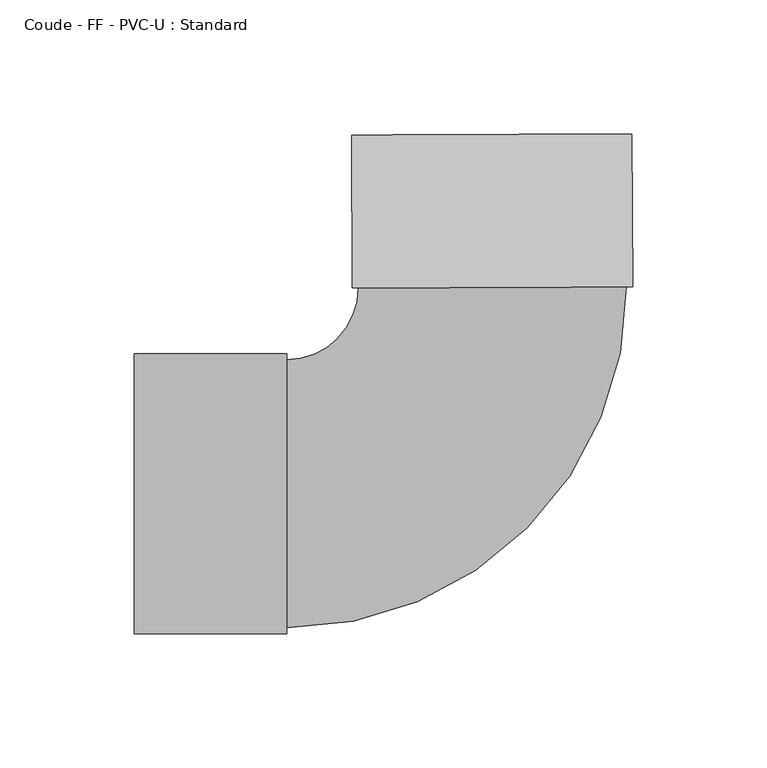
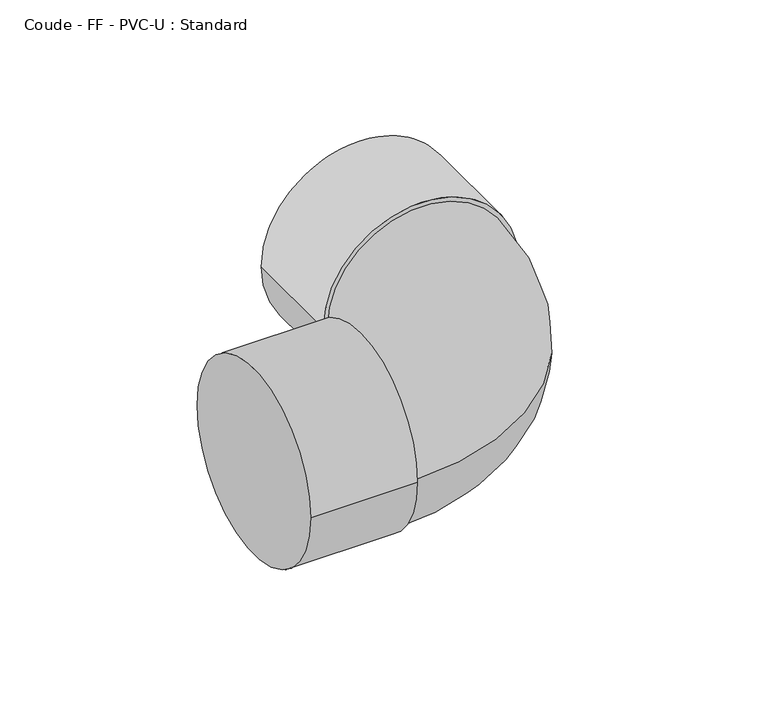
"""IFC4 building model written with IfcOpenShell, lengths in millimetres: pipe fitting geometry, Coude - FF - PVC-U : Standard."""

from ifc_helpers import new_model, si_unit, point, frame, origin, place, context, project, spatial, circle_curve, ellipse_curve, trimmed, source, transform, mapped, element, save
from ifc_brep_helpers import plane_surface, cylinder_surface, revolved_surface, advanced_brep


def coude_ff_pvc_u_standard_f35d73fb(model_context):
    return source(origin(), model_context, "Body", "AdvancedBrep", [
        advanced_brep(
        [(-134.0, -52.3, 0.0), (-134.0, 52.3, 0.0), (-77.0, -52.3, 0.0), (-77.0, 52.3, 0.0), (-77.0, -50.0, 0.0), (-77.0, 50.0, 0.0), (-50.3070639, 76.7997352, 0.0), (49.6921389, 77.1990371, 0.0), (51.9921206, 77.2082211, 0.0), (-52.6070456, 76.7905512, 0.0), (51.7645185, 134.2077667, 0.0), (-52.8346477, 133.7900968, 0.0)],
        [
            (0, 1, circle_curve(frame((-134.0, 0.0, 0.0), z_axis=(-1.0, 0.0, 0.0), x_axis=(0.0, 1.0, 0.0)), 52.3)),
            (1, 0, circle_curve(frame((-134.0, 0.0, 0.0), z_axis=(-1.0, 0.0, 0.0), x_axis=(0.0, 1.0, 0.0)), 52.3)),
            (2, 3, circle_curve(frame((-77.0, 0.0, 0.0), z_axis=(1.0, 0.0, 0.0), x_axis=(0.0, 1.0, 0.0)), 52.3)),
            (3, 2, circle_curve(frame((-77.0, 0.0, 0.0), z_axis=(1.0, 0.0, 0.0), x_axis=(0.0, 1.0, 0.0)), 52.3)),
            (4, 5, circle_curve(frame((-77.0, 0.0, 0.0), z_axis=(-1.0, 0.0, 0.0), x_axis=(0.0, 1.0, 0.0)), 50.0)),
            (5, 4, circle_curve(frame((-77.0, 0.0, 0.0), z_axis=(-1.0, 0.0, 0.0), x_axis=(0.0, 1.0, 0.0)), 50.0)),
            (0, 2),
            (3, 1),
            (6, 5, circle_curve(frame((-77.0, 76.6931489, 0.0), z_axis=(0.0, 0.0, -1.0), x_axis=(0.0, -1.0, 0.0)), 26.6931489)),
            (4, 7, circle_curve(frame((-77.0, 76.6931489, 0.0), z_axis=(0.0, 0.0, 1.0), x_axis=(0.0, -1.0, 0.0)), 126.6931489)),
            (7, 6, circle_curve(frame((-0.3074625, 76.9993861, 0.0), z_axis=(0.003993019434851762, -0.999992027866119, 0.0), x_axis=(-0.999992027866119, -0.003993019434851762, 0.0)), 50.0)),
            (6, 7, circle_curve(frame((-0.3074625, 76.9993861, 0.0), z_axis=(0.003993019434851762, -0.999992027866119, 0.0), x_axis=(-0.999992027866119, -0.003993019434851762, 0.0)), 50.0)),
            (8, 9, circle_curve(frame((-0.3074625, 76.9993861, 0.0), z_axis=(0.003993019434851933, -0.9999920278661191, 0.0), x_axis=(-0.9999920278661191, -0.003993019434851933, 0.0)), 52.3)),
            (9, 8, circle_curve(frame((-0.3074625, 76.9993861, 0.0), z_axis=(0.003993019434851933, -0.9999920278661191, 0.0), x_axis=(-0.9999920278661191, -0.003993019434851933, 0.0)), 52.3)),
            (10, 11, circle_curve(frame((-0.5350646, 133.9989317, 0.0), z_axis=(-0.003993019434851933, 0.9999920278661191, 0.0), x_axis=(-0.9999920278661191, -0.003993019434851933, 0.0)), 52.3)),
            (11, 10, circle_curve(frame((-0.5350646, 133.9989317, 0.0), z_axis=(-0.003993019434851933, 0.9999920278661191, 0.0), x_axis=(-0.9999920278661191, -0.003993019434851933, 0.0)), 52.3)),
            (8, 10),
            (11, 9),
        ],
        [
            plane_surface(frame((-134.0, 0.0, 0.0), z_axis=(-1.0, 0.0, 0.0), x_axis=(0.0, 0.0, 1.0))),
            plane_surface(frame((-77.0, 0.0, 0.0), z_axis=(1.0, 0.0, 0.0), x_axis=(0.0, 0.0, 1.0))),
            cylinder_surface(frame((-134.0, 0.0, 0.0), z_axis=(-1.0, 0.0, 0.0), x_axis=(0.0, 1.0, 0.0)), 52.3),
            revolved_surface(trimmed(ellipse_curve(frame((-77.0, 0.0, 0.0), z_axis=(-1.0, 0.0, 0.0), x_axis=(0.0, 1.0, 0.0)), 50.0, 50.0), [point((-77.0, -50.0, 0.0))], [point((-77.0, 50.0, 0.0))], True, "CARTESIAN"), (-77.0, 76.6931489, 0.0), (0.0, 0.0, 1.0)),
            revolved_surface(trimmed(ellipse_curve(frame((-77.0, 0.0, 0.0), z_axis=(-1.0, 0.0, 0.0), x_axis=(0.0, 1.0, 0.0)), 50.0, 50.0), [point((-77.0, 50.0, 0.0))], [point((-77.0, -50.0, 0.0))], True, "CARTESIAN"), (-77.0, 76.6931489, 0.0), (0.0, 0.0, 1.0)),
            plane_surface(frame((-0.3074625, 76.9993861, 0.0), z_axis=(0.003993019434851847, -0.9999920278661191, 0.0), x_axis=(0.0, 0.0, 1.0))),
            plane_surface(frame((-0.5350646, 133.9989317, 0.0), z_axis=(-0.003993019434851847, 0.9999920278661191, 0.0), x_axis=(0.0, 0.0, 1.0))),
            cylinder_surface(frame((-0.3074625, 76.9993861, 0.0), z_axis=(0.003993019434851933, -0.9999920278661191, 0.0), x_axis=(-0.9999920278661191, -0.003993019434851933, 0.0)), 52.3),
        ],
        [
            (0, [[1, 2]]),
            (1, [[3, 4], [5, 6]]),
            (2, [[-1, 7, -4, 8]]),
            (2, [[-2, -8, -3, -7]]),
            (3, [[9, -5, 10, 11]]),
            (4, [[-9, 12, -10, -6]]),
            (5, [[13, 14], [-11, -12]]),
            (6, [[15, 16]]),
            (7, [[-13, 17, -16, 18]]),
            (7, [[-14, -18, -15, -17]]),
        ],
    ),
    ])


if __name__ == "__main__":
    model = new_model("IFC4")
    model_context = context("Model", 3, world=origin())
    ifc_project = project(units=[si_unit("LENGTHUNIT", "METRE", prefix="MILLI")], contexts=[model_context])
    site = spatial("IfcSite", under=ifc_project)
    building = spatial("IfcBuilding", under=site)
    placement = place(None, origin())
    coude_ff_pvc_u_standard_shape = coude_ff_pvc_u_standard_f35d73fb(model_context)
    element("IfcPipeFitting", 1, ObjectType="Coude - FF - PVC-U : Standard", at=placement, inside=building, context=model_context, shape_type="MappedRepresentation", body=[
        mapped(coude_ff_pvc_u_standard_shape, transform((0.0, 0.0, 0.0), x_axis=(1.0, 0.0, 0.0), y_axis=(0.0, 1.0, 0.0), z_axis=(0.0, 0.0, 1.0))),
    ])
    save(model, "model.ifc")
